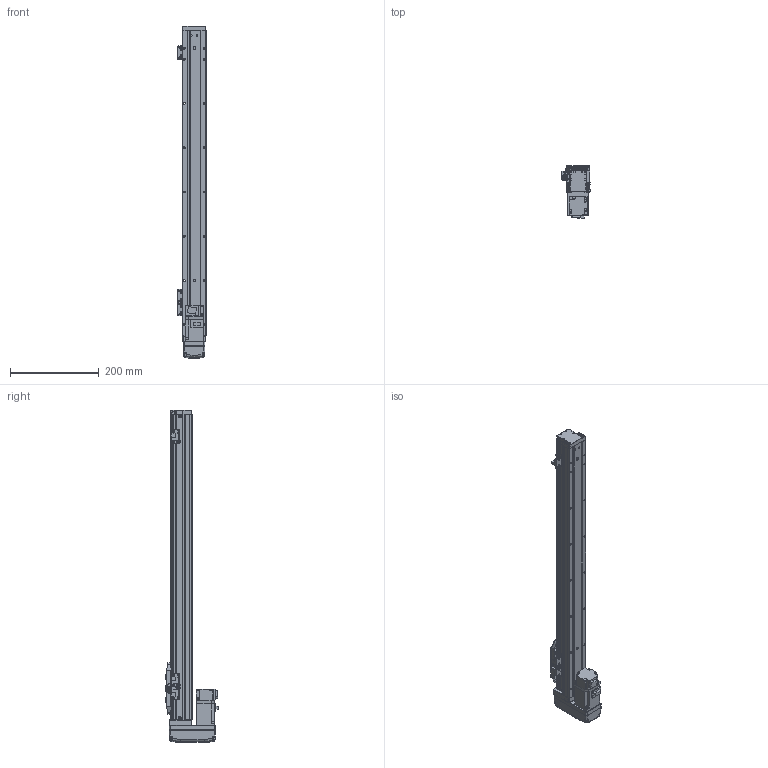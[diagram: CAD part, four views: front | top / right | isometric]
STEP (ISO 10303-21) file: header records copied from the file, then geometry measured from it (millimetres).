
FILE_DESCRIPTION (( 'STEP AP203' ), '1' );
FILE_NAME ('GTH5-550-BM-M10-C4.step', '2022-09-23T00:48:03', ( '微软用户' ), ( '微软中国' ), 'SwSTEP 2.0', 'SolidWorks 2020', '' );
FILE_SCHEMA (( 'CONFIG_CONTROL_DESIGN' ));
Length unit declared in the file: millimetre
Products named in the file (19): GTH50-003; GTH50-028; GTH50-006; GTH50-013; GTH50-022-1; GTH50-004; GTH50-023; HG-KR13; GBT 70.3-M3℅6; GBT 70.1-M3℅6; GTH50-027-1_BTHA50-027-2; BTH-M3X5X6; GBT96.1-2002 3×0.8; GTH50-026; GTH50-001_550; GTH50-024; GTH5-550-BM-M10-C4; GBT 70.1-M4×16; GBT 70.1-M2.5×6
Assembly tree (57 placements, depth 2):
  GTH5-550-BM-M10-C4
    GTH50-006
    GTH50-004
    GBT 70.3-M3℅6  x4
    BTH-M3X5X6  x8
    GTH50-001_550
    GBT 70.1-M4×16  x8
    GTH50-003
    GTH50-013
    GTH50-023  x3
    GBT 70.1-M3℅6  x12
    GBT96.1-2002 3×0.8  x6
    GTH50-024  x3
    GBT 70.1-M2.5×6  x2
    GTH50-028  x2
    GTH50-022-1
    HG-KR13
    GTH50-027-1_BTHA50-027-2
    GTH50-026
Bounding box: 63.8 x 118.9 x 750 mm (x, y, z)
Volume: 1714465.8 mm3; surface area: 292721.5 mm2
Topology: 59 solids, 59 shells, 2160 faces, 5016 edges, 3076 vertices
Faces by surface type: plane 1142, cylinder 589, cone 219, torus 162, bspline 40, sphere 8
Entity records: 40160 total; most frequent: CARTESIAN_POINT 7947, DIRECTION 6185, ORIENTED_EDGE 5946, EDGE_CURVE 2973, AXIS2_PLACEMENT_3D 2152, VECTOR 1881, LINE 1881, VERTEX_POINT 1878
